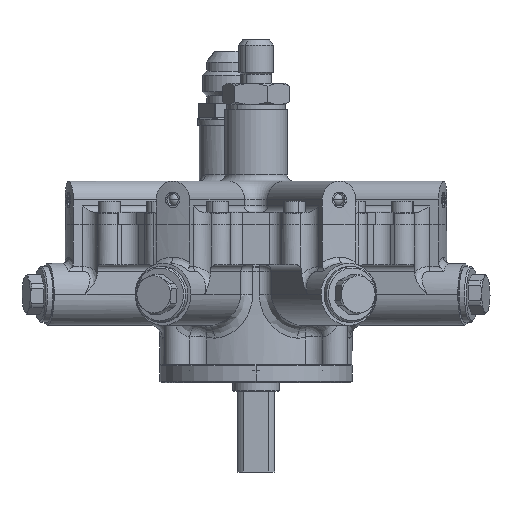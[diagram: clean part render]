
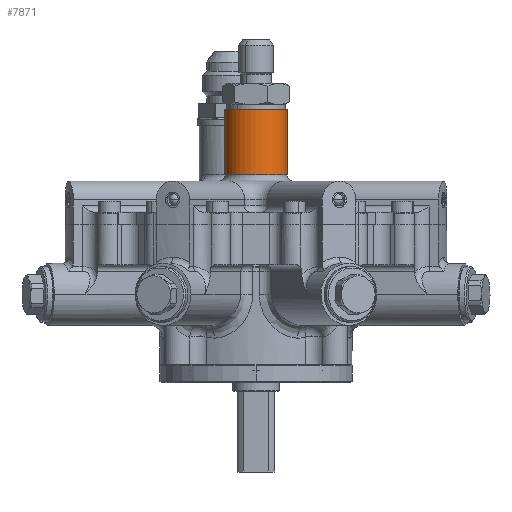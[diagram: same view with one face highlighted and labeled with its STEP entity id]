
A CAD part, front view. The second image highlights one B-rep face of the part: STEP entity #7871.
In plain terms, the highlighted cylindrical face has radius 10 mm (diameter 20 mm), a partial arc.
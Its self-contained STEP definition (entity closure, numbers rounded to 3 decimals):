
#1506 = DIRECTION ( 'NONE',  ( 0., 0., 1. ) ) ;
#2540 = LINE ( 'NONE', #12757, #31728 ) ;
#2995 = ORIENTED_EDGE ( 'NONE', *, *, #27729, .F. ) ;
#4462 = VECTOR ( 'NONE', #23649, 1000. ) ;
#5128 = CARTESIAN_POINT ( 'NONE',  ( 10., 0., 38.5 ) ) ;
#5434 = CARTESIAN_POINT ( 'NONE',  ( 0., 0., 36.5 ) ) ;
#5859 = DIRECTION ( 'NONE',  ( 0., 0., 1. ) ) ;
#6082 = LINE ( 'NONE', #16549, #4462 ) ;
#6750 = CARTESIAN_POINT ( 'NONE',  ( 0., 0., 38.5 ) ) ;
#7871 = ADVANCED_FACE ( 'NONE', ( #36297 ), #16224, .T. ) ;
#9445 = EDGE_CURVE ( 'NONE', #41168, #23790, #14480, .T. ) ;
#12721 = VERTEX_POINT ( 'NONE', #5128 ) ;
#12757 = CARTESIAN_POINT ( 'NONE',  ( 10., 0., 36.5 ) ) ;
#13657 = DIRECTION ( 'NONE',  ( -1., 0., 0. ) ) ;
#13831 = ORIENTED_EDGE ( 'NONE', *, *, #15337, .T. ) ;
#14480 = CIRCLE ( 'NONE', #24210, 10. ) ;
#15337 = EDGE_CURVE ( 'NONE', #12721, #23790, #2540, .T. ) ;
#16224 = CYLINDRICAL_SURFACE ( 'NONE', #18686, 10. ) ;
#16439 = EDGE_CURVE ( 'NONE', #30166, #12721, #32651, .T. ) ;
#16549 = CARTESIAN_POINT ( 'NONE',  ( -10., 0., 36.5 ) ) ;
#18686 = AXIS2_PLACEMENT_3D ( 'NONE', #5434, #5859, #40381 ) ;
#19024 = ORIENTED_EDGE ( 'NONE', *, *, #16439, .T. ) ;
#19506 = EDGE_LOOP ( 'NONE', ( #2995, #19024, #13831, #29998 ) ) ;
#20495 = CARTESIAN_POINT ( 'NONE',  ( 10., 0., 59.5 ) ) ;
#23470 = DIRECTION ( 'NONE',  ( 0., 0., 1. ) ) ;
#23649 = DIRECTION ( 'NONE',  ( 0., 0., 1. ) ) ;
#23790 = VERTEX_POINT ( 'NONE', #20495 ) ;
#24210 = AXIS2_PLACEMENT_3D ( 'NONE', #29293, #1506, #32757 ) ;
#26300 = AXIS2_PLACEMENT_3D ( 'NONE', #6750, #27290, #13657 ) ;
#27290 = DIRECTION ( 'NONE',  ( 0., 0., 1. ) ) ;
#27729 = EDGE_CURVE ( 'NONE', #30166, #41168, #6082, .T. ) ;
#29293 = CARTESIAN_POINT ( 'NONE',  ( 0., 0., 59.5 ) ) ;
#29998 = ORIENTED_EDGE ( 'NONE', *, *, #9445, .F. ) ;
#30166 = VERTEX_POINT ( 'NONE', #34093 ) ;
#31728 = VECTOR ( 'NONE', #23470, 1000. ) ;
#32651 = CIRCLE ( 'NONE', #26300, 10. ) ;
#32757 = DIRECTION ( 'NONE',  ( 1., 0., 0. ) ) ;
#34093 = CARTESIAN_POINT ( 'NONE',  ( -10., 0., 38.5 ) ) ;
#34327 = CARTESIAN_POINT ( 'NONE',  ( -10., 0., 59.5 ) ) ;
#36297 = FACE_OUTER_BOUND ( 'NONE', #19506, .T. ) ;
#40381 = DIRECTION ( 'NONE',  ( 1., 0., 0. ) ) ;
#41168 = VERTEX_POINT ( 'NONE', #34327 ) ;
